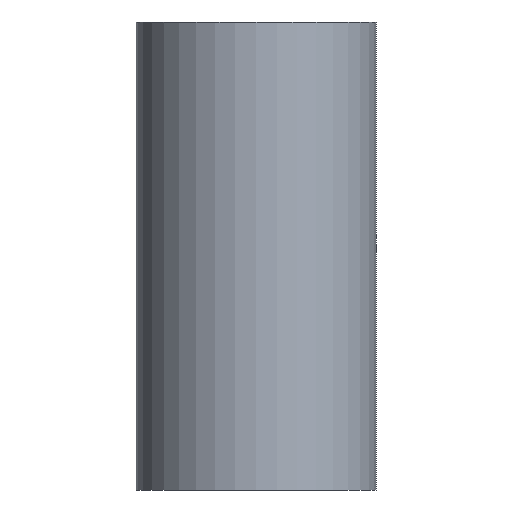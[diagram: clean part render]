
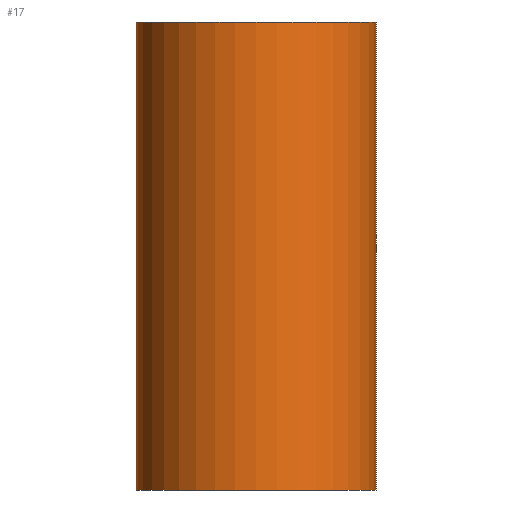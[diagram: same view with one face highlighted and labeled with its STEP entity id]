
A CAD part, front view. The second image highlights one B-rep face of the part: STEP entity #17.
In plain terms, the highlighted cylindrical face has radius 3 mm (diameter 6 mm), a full revolution.
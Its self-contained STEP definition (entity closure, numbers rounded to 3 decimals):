
#17 = ADVANCED_FACE('',(#18),#45,.T.);
#18 = FACE_BOUND('',#19,.T.);
#19 = EDGE_LOOP('',(#20,#29,#37,#44));
#20 = ORIENTED_EDGE('',*,*,#21,.F.);
#21 = EDGE_CURVE('',#22,#22,#24,.T.);
#22 = VERTEX_POINT('',#23);
#23 = CARTESIAN_POINT('',(16.435,13.435,17.7));
#24 = CIRCLE('',#25,3.);
#25 = AXIS2_PLACEMENT_3D('',#26,#27,#28);
#26 = CARTESIAN_POINT('',(13.435,13.435,17.7));
#27 = DIRECTION('',(0.,0.,1.));
#28 = DIRECTION('',(1.,0.,0.));
#29 = ORIENTED_EDGE('',*,*,#30,.F.);
#30 = EDGE_CURVE('',#31,#22,#33,.T.);
#31 = VERTEX_POINT('',#32);
#32 = CARTESIAN_POINT('',(16.435,13.435,6.));
#33 = LINE('',#34,#35);
#34 = CARTESIAN_POINT('',(16.435,13.435,6.));
#35 = VECTOR('',#36,1.);
#36 = DIRECTION('',(0.,0.,1.));
#37 = ORIENTED_EDGE('',*,*,#38,.T.);
#38 = EDGE_CURVE('',#31,#31,#39,.T.);
#39 = CIRCLE('',#40,3.);
#40 = AXIS2_PLACEMENT_3D('',#41,#42,#43);
#41 = CARTESIAN_POINT('',(13.435,13.435,6.));
#42 = DIRECTION('',(0.,0.,1.));
#43 = DIRECTION('',(1.,0.,0.));
#44 = ORIENTED_EDGE('',*,*,#30,.T.);
#45 = CYLINDRICAL_SURFACE('',#46,3.);
#46 = AXIS2_PLACEMENT_3D('',#47,#48,#49);
#47 = CARTESIAN_POINT('',(13.435,13.435,6.));
#48 = DIRECTION('',(0.,0.,1.));
#49 = DIRECTION('',(1.,0.,0.));
